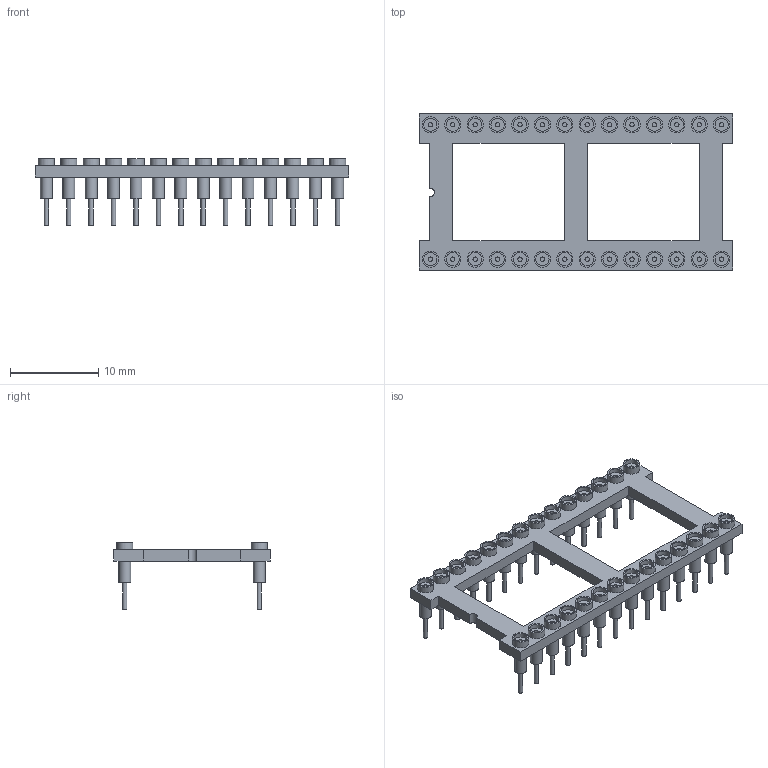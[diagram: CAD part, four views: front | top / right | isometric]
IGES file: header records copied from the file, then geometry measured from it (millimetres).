
Global section: file name: No Iges File Name specified; native system: AutoDesk Inventor R6.0; preprocessor: AutoDesk Inventor Iges Exporter R6.0; author: No Author specified; organization: No Organization specified; date: 20080103.181429; units: inch
Bounding box: 35.53 x 17.7 x 7.55 mm (x, y, z)
Surface area: 1946 mm2 (no closed solid volume)
Topology: 0 solids, 0 shells, 332 faces, 944 edges, 776 vertices
Faces by surface type: plane 135, bspline 112, revolution 85
